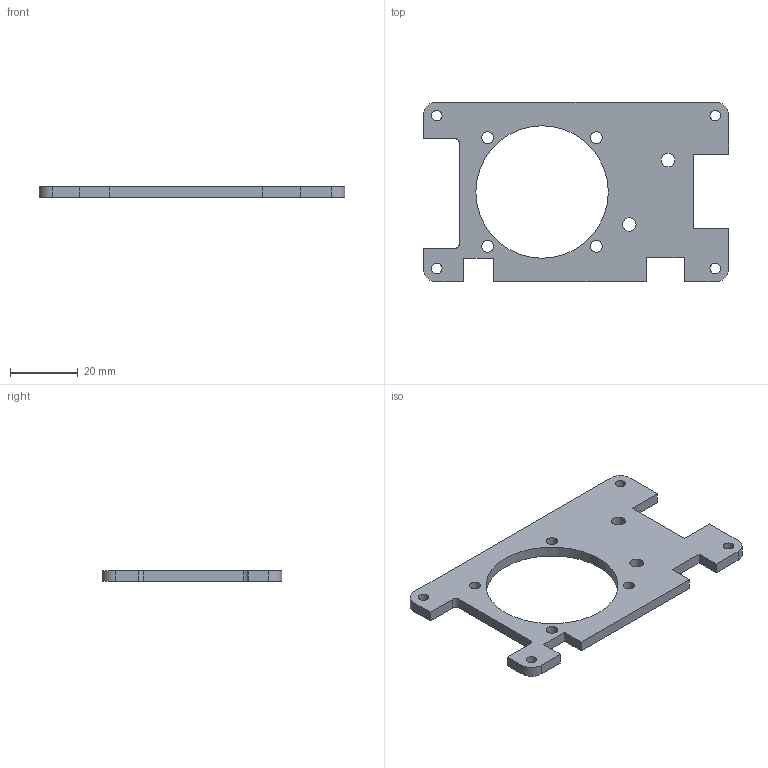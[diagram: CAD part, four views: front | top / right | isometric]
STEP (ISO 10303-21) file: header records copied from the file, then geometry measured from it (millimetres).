
FILE_DESCRIPTION(/* description */ (''),/* implementation_level */ '2;1');
FILE_NAME(/* name */ 'PN Labs Power Pal Enclosure Top Plate V1.step',/* time_stamp */ '2026-08-02T16:49:34-04:00',/* author */ (''),/* organization */ (''),/* preprocessor_version */ 'ST-DEVELOPER v20.1',/* originating_system */ 'Autodesk Translation Framework v15.8.0.0',/* authorisation */ '');
FILE_SCHEMA (('AUTOMOTIVE_DESIGN { 1 0 10303 214 3 1 1 }'));
Length unit declared in the file: millimetre
Products named in the file (1): 2026-08-02-20-47-08-167
Bounding box: 89.97 x 52.97 x 3.17 mm (x, y, z)
Volume: 8735.7 mm3; surface area: 7338.8 mm2
Topology: 1 solids, 1 shells, 39 faces, 111 edges, 74 vertices
Faces by surface type: plane 22, cylinder 17
Full cylindrical faces by diameter (mm): 3.1 x4, 3.45 x4, 4 x2, 39 x1
Entity records: 1363 total; most frequent: DIRECTION 225, CARTESIAN_POINT 225, ORIENTED_EDGE 222, EDGE_CURVE 111, LINE 77, VECTOR 77, VERTEX_POINT 74, AXIS2_PLACEMENT_3D 74
